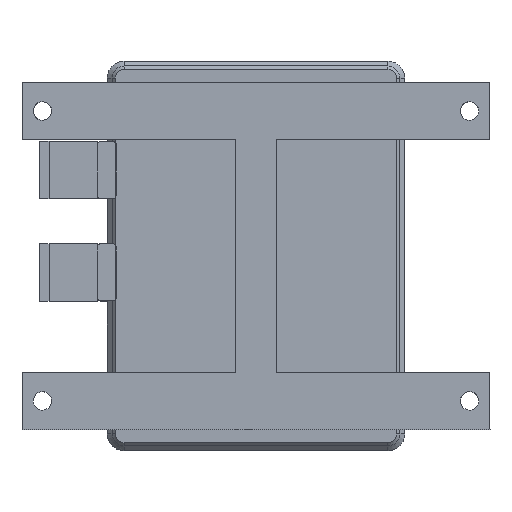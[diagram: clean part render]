
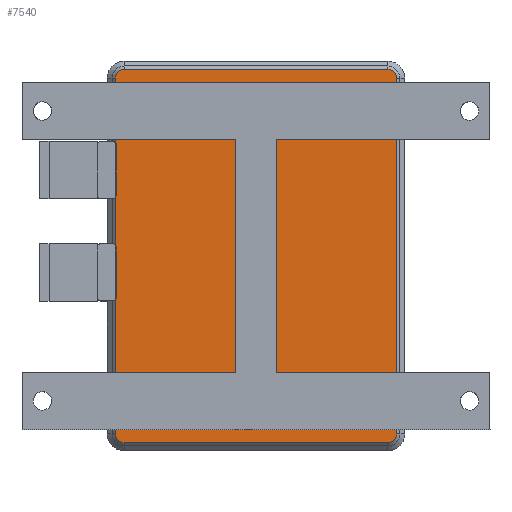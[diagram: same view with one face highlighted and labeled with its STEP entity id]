
A CAD part, top view. The second image highlights one B-rep face of the part: STEP entity #7540.
In plain terms, the highlighted planar face has unit normal (0, 0, 1).
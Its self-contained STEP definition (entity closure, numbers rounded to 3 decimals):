
#12=DIRECTION('',(1.0,0.0,0.0));
#1479=DIRECTION('',(0.0,-1.0,0.0));
#1494=DIRECTION('',(0.0,1.0,0.0));
#1541=DIRECTION('',(-1.0,0.0,0.0));
#3410=CARTESIAN_POINT('',(14.1,-35.9,38.));
#3412=VERTEX_POINT('',#3410);
#3415=VECTOR('',#1494,3.2);
#3416=CARTESIAN_POINT('',(14.1,-39.1,38.));
#3417=LINE('',#3416,#3415);
#3418=VERTEX_POINT('',#3416);
#3419=EDGE_CURVE('',#3418,#3412,#3417,.T.);
#3431=VECTOR('',#12,1.8);
#3432=LINE('',#3416,#3431);
#3433=CARTESIAN_POINT('',(15.9,-39.1,38.));
#3434=VERTEX_POINT('',#3433);
#3435=EDGE_CURVE('',#3418,#3434,#3432,.T.);
#3452=LINE('',#3433,#3415);
#3453=CARTESIAN_POINT('',(15.9,-35.9,38.));
#3454=VERTEX_POINT('',#3453);
#3455=EDGE_CURVE('',#3434,#3454,#3452,.T.);
#3475=VECTOR('',#1541,1.8);
#3476=LINE('',#3453,#3475);
#3477=EDGE_CURVE('',#3454,#3412,#3476,.T.);
#3486=CARTESIAN_POINT('',(14.1,-30.9,38.));
#3490=VERTEX_POINT('',#3486);
#3493=VECTOR('',#1479,3.2);
#3494=LINE('',#3486,#3493);
#3495=CARTESIAN_POINT('',(14.1,-34.1,38.));
#3496=VERTEX_POINT('',#3495);
#3497=EDGE_CURVE('',#3490,#3496,#3494,.T.);
#3514=LINE('',#3495,#3431);
#3515=CARTESIAN_POINT('',(15.9,-34.1,38.));
#3516=VERTEX_POINT('',#3515);
#3517=EDGE_CURVE('',#3496,#3516,#3514,.T.);
#3539=CARTESIAN_POINT('',(15.9,-30.9,38.));
#3540=LINE('',#3539,#3493);
#3541=VERTEX_POINT('',#3539);
#3542=EDGE_CURVE('',#3541,#3516,#3540,.T.);
#3557=LINE('',#3486,#3431);
#3558=EDGE_CURVE('',#3490,#3541,#3557,.T.);
#3574=CARTESIAN_POINT('',(-15.9,-35.9,38.));
#3576=VERTEX_POINT('',#3574);
#3579=CARTESIAN_POINT('',(-15.9,-39.1,38.));
#3580=LINE('',#3579,#3415);
#3581=VERTEX_POINT('',#3579);
#3582=EDGE_CURVE('',#3581,#3576,#3580,.T.);
#3599=LINE('',#3579,#3431);
#3600=CARTESIAN_POINT('',(-14.1,-39.1,38.));
#3601=VERTEX_POINT('',#3600);
#3602=EDGE_CURVE('',#3581,#3601,#3599,.T.);
#3614=CARTESIAN_POINT('',(-14.1,-35.9,38.));
#3615=LINE('',#3614,#3493);
#3616=VERTEX_POINT('',#3614);
#3617=EDGE_CURVE('',#3616,#3601,#3615,.T.);
#3637=LINE('',#3614,#3475);
#3638=EDGE_CURVE('',#3616,#3576,#3637,.T.);
#3654=CARTESIAN_POINT('',(-15.9,-30.9,38.));
#3656=VERTEX_POINT('',#3654);
#3659=CARTESIAN_POINT('',(-15.9,-34.1,38.));
#3660=LINE('',#3659,#3415);
#3661=VERTEX_POINT('',#3659);
#3662=EDGE_CURVE('',#3661,#3656,#3660,.T.);
#3674=CARTESIAN_POINT('',(-14.1,-34.1,38.));
#3675=LINE('',#3674,#3475);
#3676=VERTEX_POINT('',#3674);
#3677=EDGE_CURVE('',#3676,#3661,#3675,.T.);
#3694=LINE('',#3674,#3415);
#3695=CARTESIAN_POINT('',(-14.1,-30.9,38.));
#3696=VERTEX_POINT('',#3695);
#3697=EDGE_CURVE('',#3676,#3696,#3694,.T.);
#3714=LINE('',#3695,#3475);
#3715=EDGE_CURVE('',#3696,#3656,#3714,.T.);
#5305=DIRECTION('',(1.0,0.,0.0));
#5318=CARTESIAN_POINT('',(-34.35,43.4,38.));
#5320=VERTEX_POINT('',#5318);
#5325=CARTESIAN_POINT('',(-32.15,45.6,38.));
#5327=VERTEX_POINT('',#5325);
#5330=CARTESIAN_POINT('',(-32.15,45.6,38.));
#5331=CARTESIAN_POINT('',(-32.57,45.6,38.));
#5332=CARTESIAN_POINT('',(-33.383,45.278,38.));
#5333=CARTESIAN_POINT('',(-34.028,44.633,38.));
#5334=CARTESIAN_POINT('',(-34.35,43.82,38.));
#5335=(BOUNDED_CURVE()B_SPLINE_CURVE(2,(#5318,#5334,#5333,#5332,#5331,#5330),.UNSPECIFIED.,.U.,.U.)B_SPLINE_CURVE_WITH_KNOTS((3,1,1,1,3),(0.0,0.25,0.5,0.75,1.0),.UNSPECIFIED.)CURVE()GEOMETRIC_REPRESENTATION_ITEM()RATIONAL_B_SPLINE_CURVE((1.0,0.927,0.854,0.854,0.927,1.0))REPRESENTATION_ITEM(''));
#5336=EDGE_CURVE('',#5320,#5327,#5335,.T.);
#5348=CARTESIAN_POINT('',(32.15,45.6,38.));
#5350=VERTEX_POINT('',#5348);
#5356=CARTESIAN_POINT('',(34.35,43.4,38.));
#5358=VERTEX_POINT('',#5356);
#5361=CARTESIAN_POINT('',(34.35,43.4,38.));
#5362=CARTESIAN_POINT('',(34.35,43.82,38.));
#5363=CARTESIAN_POINT('',(34.028,44.633,38.));
#5364=CARTESIAN_POINT('',(33.383,45.278,38.));
#5365=CARTESIAN_POINT('',(32.57,45.6,38.));
#5366=(BOUNDED_CURVE()B_SPLINE_CURVE(2,(#5348,#5365,#5364,#5363,#5362,#5361),.UNSPECIFIED.,.U.,.U.)B_SPLINE_CURVE_WITH_KNOTS((3,1,1,1,3),(0.0,0.25,0.5,0.75,1.0),.UNSPECIFIED.)CURVE()GEOMETRIC_REPRESENTATION_ITEM()RATIONAL_B_SPLINE_CURVE((1.0,0.927,0.854,0.854,0.927,1.0))REPRESENTATION_ITEM(''));
#5367=EDGE_CURVE('',#5350,#5358,#5366,.T.);
#5380=VECTOR('',#5305,64.3);
#5381=LINE('',#5325,#5380);
#5382=EDGE_CURVE('',#5327,#5350,#5381,.T.);
#7469=DIRECTION('',(-0.0,0.,1.));
#7470=CARTESIAN_POINT('',(-34.35,-45.6,38.));
#7471=AXIS2_PLACEMENT_3D('',#7470,#7469,#12);
#7472=PLANE('',#7471);
#7473=ORIENTED_EDGE('',*,*,#3435,.F.);
#7474=ORIENTED_EDGE('',*,*,#3455,.F.);
#7475=ORIENTED_EDGE('',*,*,#3477,.F.);
#7476=ORIENTED_EDGE('',*,*,#3419,.T.);
#7477=EDGE_LOOP('',(#7476,#7475,#7474,#7473));
#7478=FACE_BOUND('',#7477,.T.);
#7479=ORIENTED_EDGE('',*,*,#3497,.F.);
#7480=ORIENTED_EDGE('',*,*,#3517,.F.);
#7481=ORIENTED_EDGE('',*,*,#3542,.T.);
#7482=ORIENTED_EDGE('',*,*,#3558,.T.);
#7483=EDGE_LOOP('',(#7482,#7481,#7480,#7479));
#7484=FACE_BOUND('',#7483,.T.);
#7485=ORIENTED_EDGE('',*,*,#3602,.F.);
#7486=ORIENTED_EDGE('',*,*,#3617,.T.);
#7487=ORIENTED_EDGE('',*,*,#3638,.F.);
#7488=ORIENTED_EDGE('',*,*,#3582,.T.);
#7489=EDGE_LOOP('',(#7488,#7487,#7486,#7485));
#7490=FACE_BOUND('',#7489,.T.);
#7491=ORIENTED_EDGE('',*,*,#3677,.T.);
#7492=ORIENTED_EDGE('',*,*,#3697,.F.);
#7493=ORIENTED_EDGE('',*,*,#3715,.F.);
#7494=ORIENTED_EDGE('',*,*,#3662,.T.);
#7495=EDGE_LOOP('',(#7494,#7493,#7492,#7491));
#7496=FACE_BOUND('',#7495,.T.);
#7497=ORIENTED_EDGE('',*,*,#5336,.F.);
#7498=ORIENTED_EDGE('',*,*,#5382,.F.);
#7499=ORIENTED_EDGE('',*,*,#5367,.F.);
#7500=DIRECTION('',(0.,-1.0,0.));
#7501=VECTOR('',#7500,86.8);
#7502=LINE('',#5356,#7501);
#7503=CARTESIAN_POINT('',(34.35,-43.4,38.));
#7504=VERTEX_POINT('',#7503);
#7505=EDGE_CURVE('',#5358,#7504,#7502,.T.);
#7506=ORIENTED_EDGE('',*,*,#7505,.F.);
#7507=CARTESIAN_POINT('',(32.15,-45.6,38.));
#7508=CARTESIAN_POINT('',(32.57,-45.6,38.));
#7509=CARTESIAN_POINT('',(33.383,-45.278,38.));
#7510=CARTESIAN_POINT('',(34.028,-44.633,38.));
#7511=CARTESIAN_POINT('',(34.35,-43.82,38.));
#7512=(BOUNDED_CURVE()B_SPLINE_CURVE(2,(#7503,#7511,#7510,#7509,#7508,#7507),.UNSPECIFIED.,.U.,.U.)B_SPLINE_CURVE_WITH_KNOTS((3,1,1,1,3),(0.0,0.25,0.5,0.75,1.0),.UNSPECIFIED.)CURVE()GEOMETRIC_REPRESENTATION_ITEM()RATIONAL_B_SPLINE_CURVE((1.0,0.927,0.854,0.854,0.927,1.0))REPRESENTATION_ITEM(''));
#7513=CARTESIAN_POINT('',(32.15,-45.6,38.));
#7514=VERTEX_POINT('',#7513);
#7515=EDGE_CURVE('',#7504,#7514,#7512,.T.);
#7516=ORIENTED_EDGE('',*,*,#7515,.F.);
#7517=DIRECTION('',(-1.0,0.,0.0));
#7518=VECTOR('',#7517,64.3);
#7519=LINE('',#7513,#7518);
#7520=CARTESIAN_POINT('',(-32.15,-45.6,38.));
#7521=VERTEX_POINT('',#7520);
#7522=EDGE_CURVE('',#7514,#7521,#7519,.T.);
#7523=ORIENTED_EDGE('',*,*,#7522,.F.);
#7524=CARTESIAN_POINT('',(-34.35,-43.4,38.));
#7525=CARTESIAN_POINT('',(-34.35,-43.82,38.));
#7526=CARTESIAN_POINT('',(-34.028,-44.633,38.));
#7527=CARTESIAN_POINT('',(-33.383,-45.278,38.));
#7528=CARTESIAN_POINT('',(-32.57,-45.6,38.));
#7529=(BOUNDED_CURVE()B_SPLINE_CURVE(2,(#7520,#7528,#7527,#7526,#7525,#7524),.UNSPECIFIED.,.U.,.U.)B_SPLINE_CURVE_WITH_KNOTS((3,1,1,1,3),(0.0,0.25,0.5,0.75,1.0),.UNSPECIFIED.)CURVE()GEOMETRIC_REPRESENTATION_ITEM()RATIONAL_B_SPLINE_CURVE((1.0,0.927,0.854,0.854,0.927,1.0))REPRESENTATION_ITEM(''));
#7530=VERTEX_POINT('',#7524);
#7531=EDGE_CURVE('',#7521,#7530,#7529,.T.);
#7532=ORIENTED_EDGE('',*,*,#7531,.F.);
#7533=DIRECTION('',(0.,1.0,0.));
#7534=VECTOR('',#7533,86.8);
#7535=LINE('',#7524,#7534);
#7536=EDGE_CURVE('',#7530,#5320,#7535,.T.);
#7537=ORIENTED_EDGE('',*,*,#7536,.F.);
#7538=EDGE_LOOP('',(#7537,#7532,#7523,#7516,#7506,#7499,#7498,#7497));
#7539=FACE_BOUND('',#7538,.T.);
#7540=ADVANCED_FACE('',(#7539,#7496,#7490,#7484,#7478),#7472,.T.);
